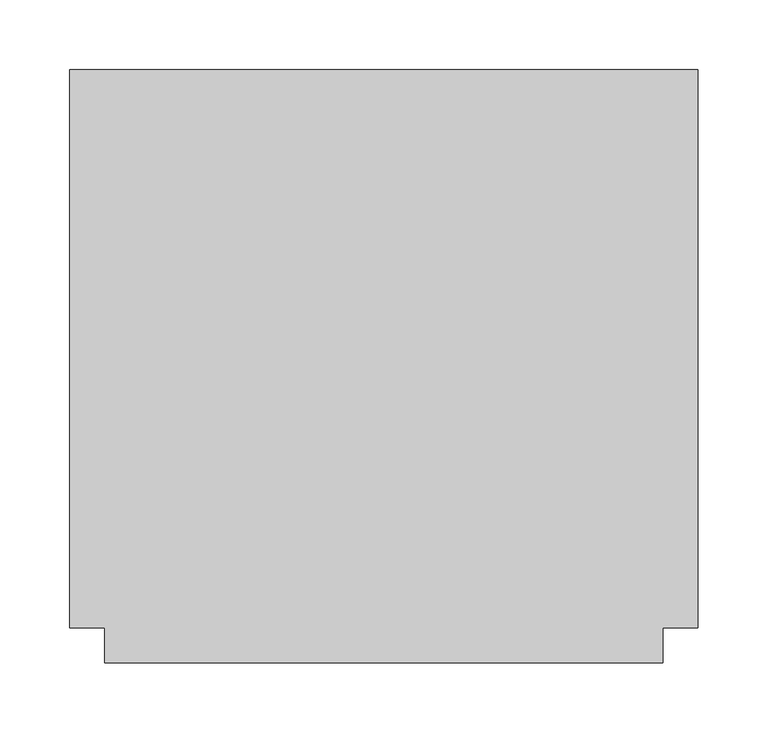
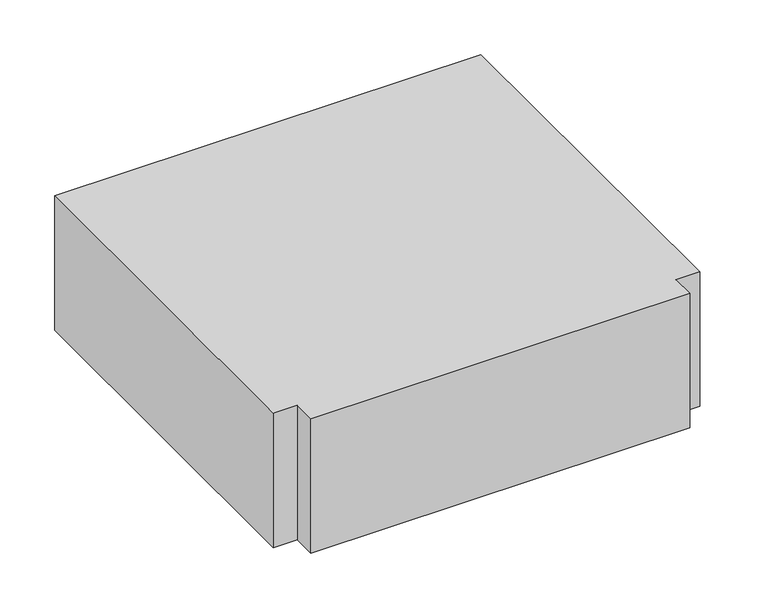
"""IFC4 building model written with IfcOpenShell, lengths in millimetres: duct fitting geometry, M_Te rectangular : Estándar."""

from ifc_helpers import new_model, si_unit, frame, origin, place, context, project, spatial, polyline, outline, extrude, source, transform, mapped, element, save


def duct_fitting_4539f929(model_context):
    return source(origin(), model_context, "Body", "SweptSolid", [
        extrude(outline(polyline([(-225.0, -200.0), (-225.0, 200.0), (225.0, 200.0), (225.0, -200.0), (200.0, -200.0), (200.0, -225.0), (-200.0, -225.0), (-200.0, -200.0), (-225.0, -200.0)])), frame((0.0, 0.0, -75.0), z_axis=(0.0, 0.0, 1.0), x_axis=(1.0, 0.0, 0.0)), (0.0, 0.0, 1.0), 150.0),
    ])


if __name__ == "__main__":
    model = new_model("IFC4")
    model_context = context("Model", 3, world=origin())
    ifc_project = project(units=[si_unit("LENGTHUNIT", "METRE", prefix="MILLI")], contexts=[model_context])
    site = spatial("IfcSite", under=ifc_project)
    building = spatial("IfcBuilding", under=site)
    placement = place(None, origin())
    duct_fitting_shape = duct_fitting_4539f929(model_context)
    element("IfcDuctFitting", 1, ObjectType="M_Te rectangular : Estándar", at=placement, inside=building, context=model_context, shape_type="MappedRepresentation", body=[
        mapped(duct_fitting_shape, transform((0.0, 0.0, 0.0), x_axis=(1.0, 0.0, 0.0), y_axis=(0.0, 1.0, 0.0), z_axis=(0.0, 0.0, 1.0))),
    ])
    save(model, "model.ifc")
